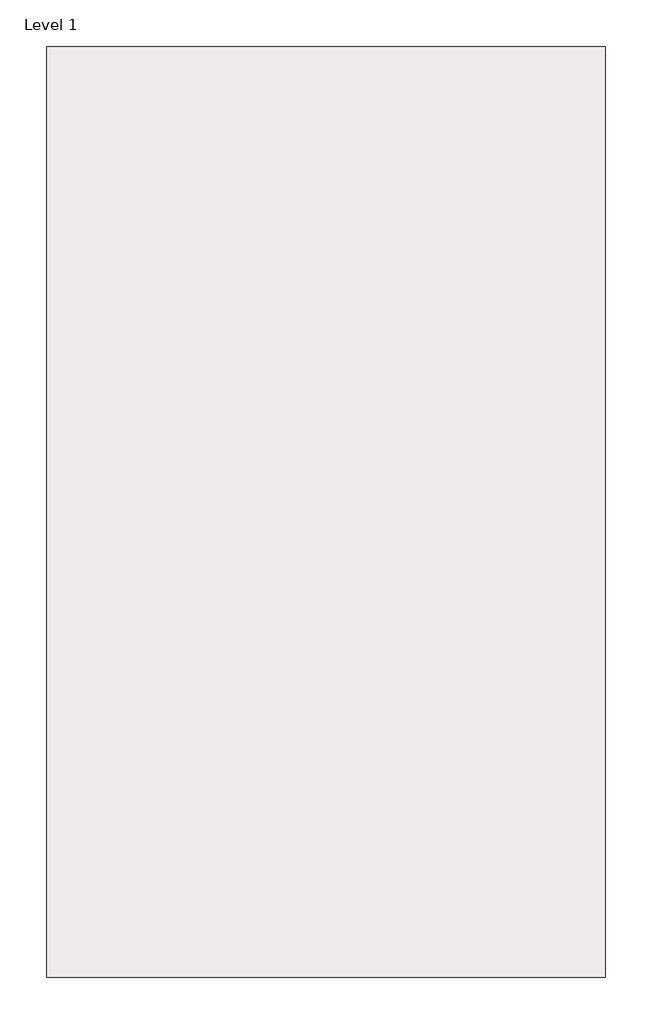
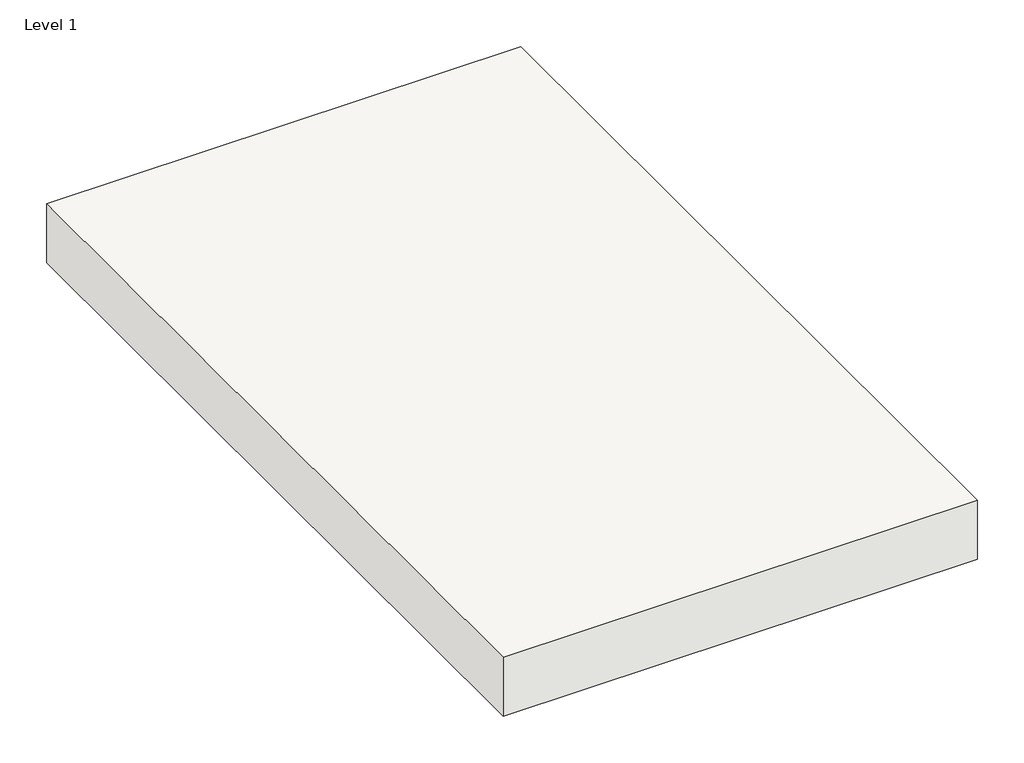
# One storey: 1 slab.
"""IFC4 building model written with IfcOpenShell, lengths in millimetres."""

import ifcopenshell
import ifcopenshell.guid

model = None  # the IFC model being written
_history = None  # IfcOwnerHistory: only IFC2X3 demands one
_inside = {}  # id of a spatial element -> (the spatial element, [elements in it])
_under = {}  # id of a project, library or spatial element -> (it, [spatial elements below it])
_declared = {}  # id of a project -> (the project, [libraries it declares])
_typed = {}  # id of a type object -> (the type object, [elements of that type])
_made_of = {}  # id of a material, layer set ... -> (it, [elements and type objects made of it])


def new_model(schema):
    """Start an empty IFC model of exactly this schema.

    Asked for "IFC4X3", IfcOpenShell would pick the latest addendum, in which some entities
    have other attributes; the version numbers below select the first issue.
    IFC2X3 requires an IfcOwnerHistory on every rooted entity: one is made here for all.
    """
    global model, _history
    if schema == "IFC4X3":
        model = ifcopenshell.file(schema_version=(4, 3, 0, 0))
    else:
        model = ifcopenshell.file(schema=schema)
    _inside.clear()
    _under.clear()
    _declared.clear()
    _typed.clear()
    _made_of.clear()
    _history = None
    if model.schema == "IFC2X3":
        org = make("IfcOrganization", Name="unknown")
        user = make(
            "IfcPersonAndOrganization",
            ThePerson=make("IfcPerson", FamilyName="unknown"),
            TheOrganization=org,
        )
        app = make(
            "IfcApplication",
            ApplicationDeveloper=org,
            Version="unknown",
            ApplicationFullName="unknown",
            ApplicationIdentifier="unknown",
        )
        _history = make(
            "IfcOwnerHistory",
            OwningUser=user,
            OwningApplication=app,
            ChangeAction="ADDED",
            CreationDate=0,
        )
    return model


def make(cls, **values):
    """One entity of the class cls with the attributes given. An attribute that is None is left unset."""
    return model.create_entity(
        cls, **{name: value for name, value in values.items() if value is not None}
    )


def rooted(cls, **values):
    """An entity with a GlobalId (a new one), such as an element, a storey or a relation."""
    return make(cls, GlobalId=ifcopenshell.guid.new(), OwnerHistory=_history, **values)


def si_unit(unit_type, name, prefix=None):
    """IfcSIUnit, for example si_unit("LENGTHUNIT", "METRE", prefix="MILLI")."""
    return make("IfcSIUnit", UnitType=unit_type, Prefix=prefix, Name=name)


def assignment(units):
    """IfcUnitAssignment: the units of a project."""
    return None if units is None else make("IfcUnitAssignment", Units=units)


def point(xyz):
    """IfcCartesianPoint."""
    return None if xyz is None else make("IfcCartesianPoint", Coordinates=xyz)


def direction(xyz):
    """IfcDirection."""
    return None if xyz is None else make("IfcDirection", DirectionRatios=xyz)


def frame(location, z_axis=None, x_axis=None):
    """IfcAxis2Placement3D, a coordinate frame: its origin and axes. An axis left out is left unset."""
    return make(
        "IfcAxis2Placement3D",
        Location=point(location),
        Axis=direction(z_axis),
        RefDirection=direction(x_axis),
    )


def origin():
    """The frame at (0, 0, 0) with its axes left unset."""
    return frame((0.0, 0.0, 0.0))


def place(relative_to, where):
    """IfcLocalPlacement: puts the frame where relative to a parent placement (None: the world)."""
    return make(
        "IfcLocalPlacement", PlacementRelTo=relative_to, RelativePlacement=where
    )


def context(
    kind, dimensions, precision=None, world=None, true_north=None, identifier=None
):
    """IfcGeometricRepresentationContext, for example the 3D "Model" context."""
    return make(
        "IfcGeometricRepresentationContext",
        ContextIdentifier=identifier,
        ContextType=kind,
        CoordinateSpaceDimension=dimensions,
        Precision=precision,
        WorldCoordinateSystem=world,
        TrueNorth=true_north,
    )


def project(units=None, contexts=None):
    """IfcProject with its units and contexts."""
    return rooted(
        "IfcProject",
        Name="project",
        RepresentationContexts=contexts,
        UnitsInContext=assignment(units),
    )


def spatial(cls, under=None, at=None, **own):
    """A site, building, storey or space (cls), placed at a placement, below another one or the project."""
    s = rooted(cls, ObjectPlacement=at, **own)
    if under is not None:
        _under.setdefault(under.id(), (under, []))[1].append(s)
    return s


def polyline(points):
    """IfcPolyline through the points."""
    return make("IfcPolyline", Points=[point(p) for p in points])


def outline(outer, holes=None, kind="AREA"):
    """IfcArbitraryClosedProfileDef: a profile drawn as a closed curve; with holes, ...WithVoids."""
    if holes is None:
        return make("IfcArbitraryClosedProfileDef", ProfileType=kind, OuterCurve=outer)
    return make(
        "IfcArbitraryProfileDefWithVoids",
        ProfileType=kind,
        OuterCurve=outer,
        InnerCurves=holes,
    )


def extrude(swept, where, along, depth):
    """IfcExtrudedAreaSolid: the profile swept, set in the frame where, extruded along a direction by depth."""
    return make(
        "IfcExtrudedAreaSolid",
        SweptArea=swept,
        Position=where,
        ExtrudedDirection=direction(along),
        Depth=depth,
    )


def shape(context_of_items, identifier, shape_type, items):
    """IfcShapeRepresentation: the items that make up one representation, for example the "Body"."""
    return make(
        "IfcShapeRepresentation",
        ContextOfItems=context_of_items,
        RepresentationIdentifier=identifier,
        RepresentationType=shape_type,
        Items=items,
    )


def made_of(thing, what):
    """Note that an element or type object is made of a material, layer set ...; save() writes the relation."""
    if what is not None:
        _made_of.setdefault(what.id(), (what, []))[1].append(thing)
    return thing


def element(
    cls,
    number,
    at=None,
    inside=None,
    cuts=None,
    type_object=None,
    material=None,
    context=None,
    identifier="Body",
    shape_type=None,
    held_by="IfcProductDefinitionShape",
    body=None,
    shapes=None,
    **own,
):
    """One element of the class cls, such as IfcWall. Its Tag is "e" and its number.

    at: its placement. inside: the storey or other place that contains it. cuts: it is an
    opening in that element (IfcRelVoidsElement). A single representation is given by context,
    identifier, shape_type and body (its items); several are given by shapes. held_by: the class
    of the entity that holds the representations. save() writes the other relations.
    """
    e = rooted(cls, Tag="e%d" % number, ObjectPlacement=at, **own)
    if body is not None:
        shapes = [shape(context, identifier, shape_type, body)]
    if shapes is not None:
        e.Representation = make(held_by, Representations=shapes)
    if inside is not None:
        _inside.setdefault(inside.id(), (inside, []))[1].append(e)
    if cuts is not None:
        rooted(
            "IfcRelVoidsElement", RelatingBuildingElement=cuts, RelatedOpeningElement=e
        )
    if type_object is not None:
        _typed.setdefault(type_object.id(), (type_object, []))[1].append(e)
    return made_of(e, material)


def aggregate(whole, parts):
    """IfcRelAggregates: a whole, such as a stair, and the parts it consists of."""
    return rooted("IfcRelAggregates", RelatingObject=whole, RelatedObjects=parts)


def save(model, path):
    """Write the relations noted so far, then the file.

    IfcRelAggregates (storeys below a building ...), IfcRelContainedInSpatialStructure (elements
    in a storey), IfcRelDefinesByType, IfcRelAssociatesMaterial and IfcRelDeclares: one each for
    every whole, place, type object, material and project.
    """
    for whole, parts in _under.values():
        aggregate(whole, parts)
    for where, things in _inside.values():
        rooted(
            "IfcRelContainedInSpatialStructure",
            RelatedElements=things,
            RelatingStructure=where,
        )
    for kind, things in _typed.values():
        rooted("IfcRelDefinesByType", RelatedObjects=things, RelatingType=kind)
    for what, things in _made_of.values():
        rooted("IfcRelAssociatesMaterial", RelatedObjects=things, RelatingMaterial=what)
    for by, libraries in _declared.values():
        rooted("IfcRelDeclares", RelatingContext=by, RelatedDefinitions=libraries)
    model.write(path)


model = new_model("IFC4")

# Units and contexts
model_context = context("Model", 3, world=origin())
ifc_project = project(units=[si_unit("LENGTHUNIT", "METRE", prefix="MILLI")], contexts=[model_context])

# Site, building, storey
site = spatial("IfcSite", under=ifc_project)
building = spatial("IfcBuilding", under=site)
storey = spatial("IfcBuildingStorey", under=building, Name="Level 1", Elevation=0.0)

# Slab
placement = place(None, origin())
element("IfcSlab", 1, ObjectType="ED750A", at=placement, inside=storey, context=model_context, shape_type="SweptSolid", body=[
    extrude(outline(polyline([(2747.4282268, 3623.6822678), (2747.4282268, 575.6822678), (918.6282268, 575.6822678), (918.6282268, 3623.6822678), (2747.4282268, 3623.6822678)])), frame((0.0, 0.0, -241.3), z_axis=(0.0, 0.0, 1.0), x_axis=(1.0, 0.0, 0.0)), (0.0, 0.0, 1.0), 241.3),
])

save(model, "model.ifc")
